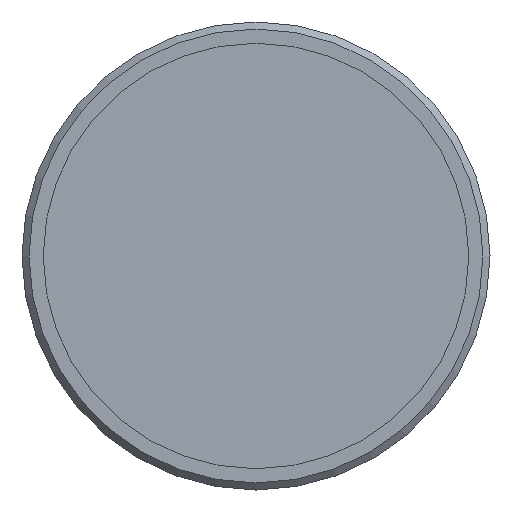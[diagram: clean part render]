
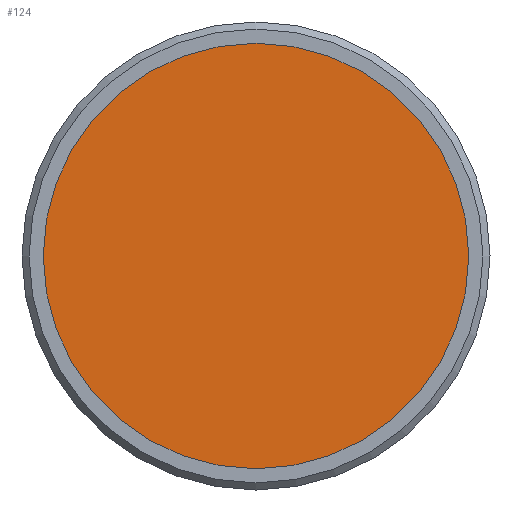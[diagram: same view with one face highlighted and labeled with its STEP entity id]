
A CAD part, left-side view. The second image highlights one B-rep face of the part: STEP entity #124.
In plain terms, the highlighted planar face has unit normal (-1, 0, 0).
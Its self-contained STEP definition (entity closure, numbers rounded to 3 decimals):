
#23=PLANE('',#144);
#40=FACE_OUTER_BOUND('',#56,.T.);
#56=EDGE_LOOP('',(#106));
#71=CIRCLE('',#143,3.);
#81=VERTEX_POINT('',#215);
#91=EDGE_CURVE('',#81,#81,#71,.T.);
#106=ORIENTED_EDGE('',*,*,#91,.T.);
#124=ADVANCED_FACE('',(#40),#23,.F.);
#143=AXIS2_PLACEMENT_3D('',#216,#178,#179);
#144=AXIS2_PLACEMENT_3D('',#217,#180,#181);
#178=DIRECTION('center_axis',(-1.,0.,0.));
#179=DIRECTION('ref_axis',(0.,0.,-1.));
#180=DIRECTION('center_axis',(1.,0.,0.));
#181=DIRECTION('ref_axis',(0.,0.,-1.));
#215=CARTESIAN_POINT('',(-9.95,0.,3.));
#216=CARTESIAN_POINT('Origin',(-9.95,0.,0.));
#217=CARTESIAN_POINT('Origin',(-9.95,0.,0.));
